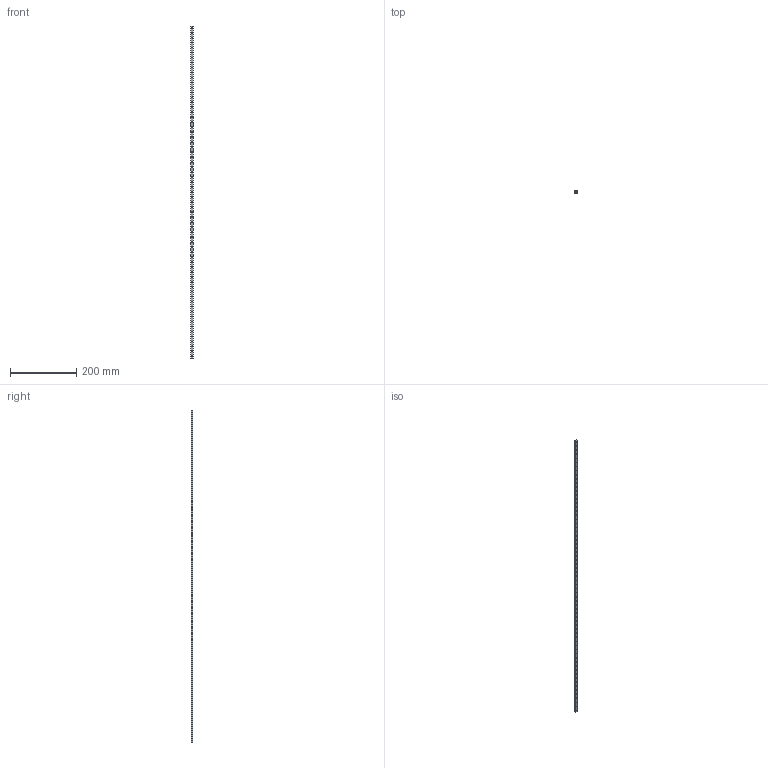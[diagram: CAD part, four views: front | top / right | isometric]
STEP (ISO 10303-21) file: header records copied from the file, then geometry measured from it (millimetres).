
FILE_DESCRIPTION (( 'STEP AP214' ), '1' );
FILE_NAME ('2.0013 Lineaarijohde MGN7 1000 mm.STEP', '2024-04-22T09:39:30', ( '' ), ( '' ), 'SwSTEP 2.0', 'SolidWorks 2024', '' );
FILE_SCHEMA (( 'AUTOMOTIVE_DESIGN' ));
Length unit declared in the file: millimetre
Products named in the file (1): 2.0013 Lineaarijohde MGN7 1000 mm
Bounding box: 7 x 4.8 x 1000 mm (x, y, z)
Volume: 29087.9 mm3; surface area: 27483.6 mm2
Topology: 1 solids, 1 shells, 350 faces, 843 edges, 562 vertices
Faces by surface type: cylinder 271, plane 79
Entity records: 10800 total; most frequent: DIRECTION 2087, CARTESIAN_POINT 1756, ORIENTED_EDGE 1686, AXIS2_PLACEMENT_3D 893, EDGE_CURVE 843, VERTEX_POINT 562, EDGE_LOOP 551, CIRCLE 542
